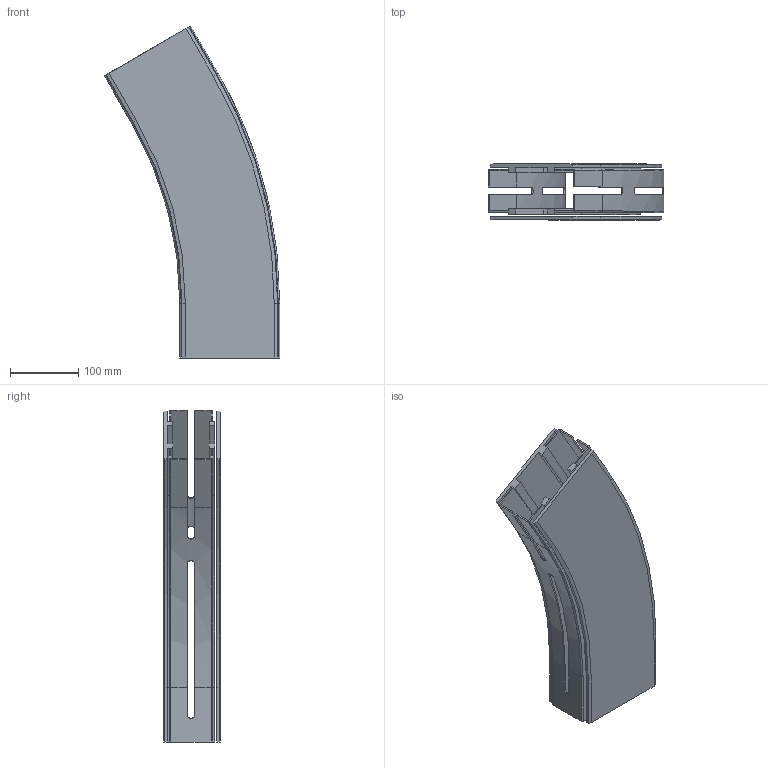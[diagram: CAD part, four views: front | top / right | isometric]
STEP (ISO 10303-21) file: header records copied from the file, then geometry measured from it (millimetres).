
FILE_DESCRIPTION((''),'2;1');
FILE_NAME('C:\Vault Klient\Projekt\Koncept konstruktion\Serie 540 Balk\540-5340.stp','2010-11-25T08:02:27',('Mathias'),(''),'Autodesk Inventor 2011','Autodesk Inventor 2011','');
FILE_SCHEMA(('AUTOMOTIVE_DESIGN { 1 0 10303 214 1 1 1 1 }'));
Length unit declared in the file: millimetre
Products named in the file (1): 540-5340
Bounding box: 256.6 x 82 x 485.78 mm (x, y, z)
Volume: 1070421.3 mm3; surface area: 553169.6 mm2
Topology: 2 solids, 2 shells, 163 faces, 458 edges, 300 vertices
Faces by surface type: plane 107, cylinder 28, bspline 18, cone 6, torus 4
Entity records: 5598 total; most frequent: CARTESIAN_POINT 1344, ORIENTED_EDGE 916, DIRECTION 798, EDGE_CURVE 458, VECTOR 338, LINE 338, VERTEX_POINT 300, AXIS2_PLACEMENT_3D 230
